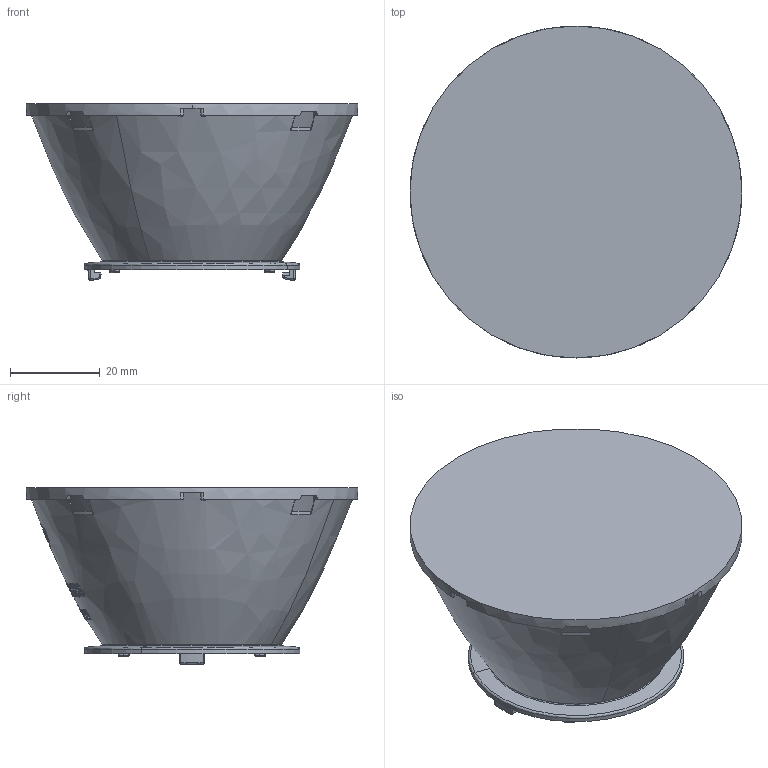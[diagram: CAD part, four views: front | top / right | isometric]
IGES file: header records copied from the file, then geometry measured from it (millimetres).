
Global section: file name: C:\CoreTechnologie\3D-In/022YJ06Y04.igs; native system: CT CoreTechnologie 3D Evolution; preprocessor: 2006; author: CT CoreTechnologie; organization: CT CoreTechnologie; date: 220506.084241; units: millimetre
Bounding box: 74 x 74 x 39.25 mm (x, y, z)
Volume: 100053.5 mm3; surface area: 14358.4 mm2
Topology: 1 solids, 1 shells, 352 faces, 895 edges, 582 vertices
Faces by surface type: plane 162, revolution 111, bspline 79
